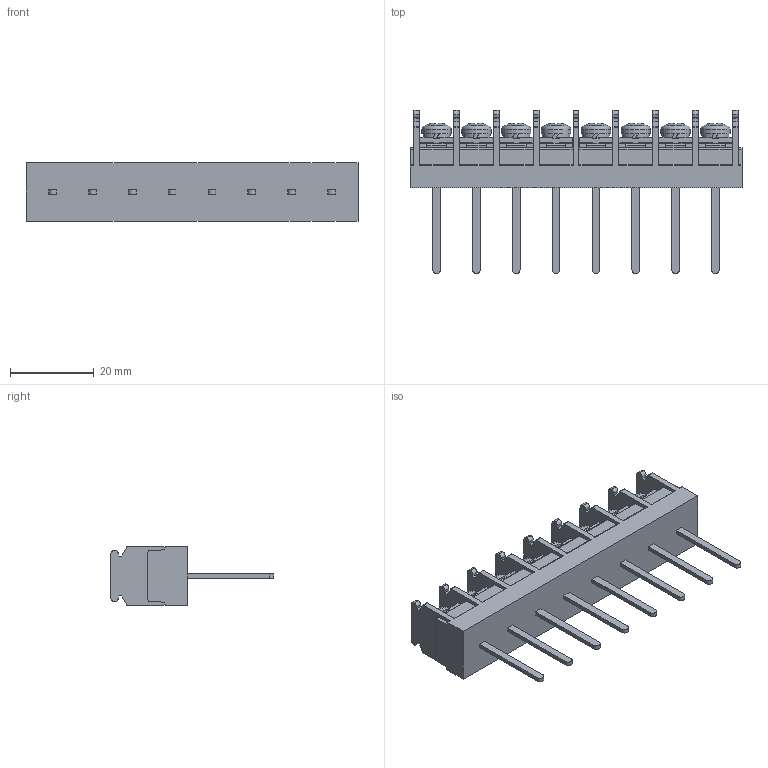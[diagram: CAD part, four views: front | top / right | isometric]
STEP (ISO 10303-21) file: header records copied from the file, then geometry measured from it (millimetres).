
FILE_DESCRIPTION(/* description */ ('Alibre Inc.'),/* implementation_level */ '2;1');
FILE_NAME(/* name */ 'export-5F9A9FFC-EB99-4CC4-88A5-8E5E2D44A76F',/* time_stamp */ '2021-02-13T15:15:08+09:00',/* author */ (''),/* organization */ (''),/* preprocessor_version */ 'ST-DEVELOPER v17',/* originating_system */ 'Alibre',/* authorisation */ '');
FILE_SCHEMA (('CONFIG_CONTROL_DESIGN'));
Length unit declared in the file: millimetre
Bounding box: 79.2 x 39 x 14 mm (x, y, z)
Volume: 13671.6 mm3; surface area: 9883.9 mm2
Topology: 1 solids, 25 shells, 1332 faces, 3730 edges, 2452 vertices
Faces by surface type: plane 988, cylinder 176, bspline 104, cone 40, torus 16, sphere 8
Full cylindrical faces by diameter (mm): 4 x16, 7 x8
Entity records: 40847 total; most frequent: CARTESIAN_POINT 8462, ORIENTED_EDGE 7332, DIRECTION 5306, EDGE_CURVE 3666, VECTOR 2674, LINE 2674, VERTEX_POINT 2436, AXIS2_PLACEMENT_3D 1784
